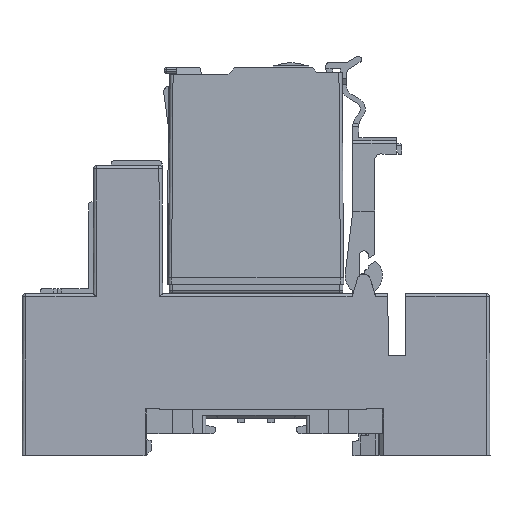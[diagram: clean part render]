
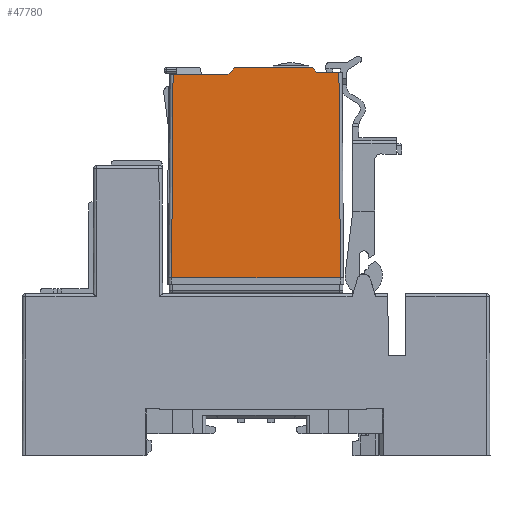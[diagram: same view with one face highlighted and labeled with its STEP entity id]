
A CAD part, left-side view. The second image highlights one B-rep face of the part: STEP entity #47780.
In plain terms, the highlighted planar face has unit normal (-1, 0, 0.007).
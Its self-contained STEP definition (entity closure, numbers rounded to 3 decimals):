
#1091 = CARTESIAN_POINT ( 'NONE',  ( 1.061, 42.044, 61.1 ) ) ;
#1729 = CARTESIAN_POINT ( 'NONE',  ( 1.065, 50.831, 61.699 ) ) ;
#2086 = EDGE_CURVE ( 'NONE', #45549, #36399, #53335, .T. ) ;
#2202 = DIRECTION ( 'NONE',  ( -0.007, 0., -1. ) ) ;
#2235 = EDGE_LOOP ( 'NONE', ( #5943, #43329, #26703, #21637, #56210, #16063, #18239, #55783 ) ) ;
#2594 = VERTEX_POINT ( 'NONE', #50655 ) ;
#2635 = DIRECTION ( 'NONE',  ( -0.007, 0.007, -1. ) ) ;
#4071 = CARTESIAN_POINT ( 'NONE',  ( 0.821, 23.99, 28.5 ) ) ;
#5306 = DIRECTION ( 'NONE',  ( 0.005, 0.707, 0.707 ) ) ;
#5371 = DIRECTION ( 'NONE',  ( 0., 1., 0. ) ) ;
#5943 = ORIENTED_EDGE ( 'NONE', *, *, #58213, .F. ) ;
#7057 = CARTESIAN_POINT ( 'NONE',  ( 1.063, 27.825, 61.499 ) ) ;
#7202 = CARTESIAN_POINT ( 'NONE',  ( 1.063, 24.233, 61.496 ) ) ;
#7261 = DIRECTION ( 'NONE',  ( -0.005, 0.707, -0.707 ) ) ;
#7504 = DIRECTION ( 'NONE',  ( 0., -1., 0. ) ) ;
#10232 = LINE ( 'NONE', #50904, #51799 ) ;
#11201 = EDGE_CURVE ( 'NONE', #45549, #20958, #10232, .T. ) ;
#11678 = EDGE_CURVE ( 'NONE', #13836, #30421, #13452, .T. ) ;
#11773 = LINE ( 'NONE', #21589, #34618 ) ;
#12189 = CARTESIAN_POINT ( 'NONE',  ( 1.069, 40.944, 62.2 ) ) ;
#13452 = LINE ( 'NONE', #26605, #41334 ) ;
#13836 = VERTEX_POINT ( 'NONE', #60201 ) ;
#16063 = ORIENTED_EDGE ( 'NONE', *, *, #53077, .T. ) ;
#16234 = VECTOR ( 'NONE', #7261, 1000. ) ;
#18190 = VECTOR ( 'NONE', #5306, 1000. ) ;
#18239 = ORIENTED_EDGE ( 'NONE', *, *, #11201, .F. ) ;
#20958 = VERTEX_POINT ( 'NONE', #55235 ) ;
#21589 = CARTESIAN_POINT ( 'NONE',  ( 1.063, 23.733, 61.5 ) ) ;
#21637 = ORIENTED_EDGE ( 'NONE', *, *, #49634, .T. ) ;
#22449 = LINE ( 'NONE', #56317, #30759 ) ;
#23036 = DIRECTION ( 'NONE',  ( 0., 1., 0. ) ) ;
#23754 = EDGE_CURVE ( 'NONE', #2594, #13836, #44345, .T. ) ;
#26605 = CARTESIAN_POINT ( 'NONE',  ( 1.069, 51.333, 62.2 ) ) ;
#26703 = ORIENTED_EDGE ( 'NONE', *, *, #11678, .T. ) ;
#27759 = DIRECTION ( 'NONE',  ( 0., 1., 0. ) ) ;
#29686 = VERTEX_POINT ( 'NONE', #1091 ) ;
#30421 = VERTEX_POINT ( 'NONE', #12189 ) ;
#30759 = VECTOR ( 'NONE', #23036, 1000. ) ;
#30937 = FACE_OUTER_BOUND ( 'NONE', #2235, .T. ) ;
#34618 = VECTOR ( 'NONE', #7504, 1000. ) ;
#36399 = VERTEX_POINT ( 'NONE', #41744 ) ;
#37611 = VECTOR ( 'NONE', #2635, 1000. ) ;
#39507 = VECTOR ( 'NONE', #43900, 1000. ) ;
#39846 = CARTESIAN_POINT ( 'NONE',  ( 1.063, 23.733, 61.5 ) ) ;
#40441 = PLANE ( 'NONE',  #44371 ) ;
#41334 = VECTOR ( 'NONE', #27759, 1000. ) ;
#41744 = CARTESIAN_POINT ( 'NONE',  ( 1.063, 24.233, 61.5 ) ) ;
#41843 = EDGE_CURVE ( 'NONE', #29686, #55608, #22449, .T. ) ;
#43329 = ORIENTED_EDGE ( 'NONE', *, *, #23754, .T. ) ;
#43900 = DIRECTION ( 'NONE',  ( 0.007, 0.007, 1. ) ) ;
#44345 = LINE ( 'NONE', #7057, #18190 ) ;
#44371 = AXIS2_PLACEMENT_3D ( 'NONE', #39846, #48980, #2202 ) ;
#45549 = VERTEX_POINT ( 'NONE', #4071 ) ;
#47780 = ADVANCED_FACE ( 'NONE', ( #30937 ), #40441, .F. ) ;
#48545 = CARTESIAN_POINT ( 'NONE',  ( 1.061, 50.836, 61.1 ) ) ;
#48980 = DIRECTION ( 'NONE',  ( 1., 0., -0.007 ) ) ;
#49391 = LINE ( 'NONE', #1729, #37611 ) ;
#49634 = EDGE_CURVE ( 'NONE', #30421, #29686, #54582, .T. ) ;
#50655 = CARTESIAN_POINT ( 'NONE',  ( 1.063, 27.826, 61.5 ) ) ;
#50904 = CARTESIAN_POINT ( 'NONE',  ( 0.821, 23.733, 28.5 ) ) ;
#51799 = VECTOR ( 'NONE', #5371, 1000. ) ;
#53077 = EDGE_CURVE ( 'NONE', #55608, #20958, #49391, .T. ) ;
#53335 = LINE ( 'NONE', #7202, #39507 ) ;
#54274 = CARTESIAN_POINT ( 'NONE',  ( 1.069, 40.945, 62.199 ) ) ;
#54582 = LINE ( 'NONE', #54274, #16234 ) ;
#55235 = CARTESIAN_POINT ( 'NONE',  ( 0.821, 51.075, 28.5 ) ) ;
#55608 = VERTEX_POINT ( 'NONE', #48545 ) ;
#55783 = ORIENTED_EDGE ( 'NONE', *, *, #2086, .T. ) ;
#56210 = ORIENTED_EDGE ( 'NONE', *, *, #41843, .T. ) ;
#56317 = CARTESIAN_POINT ( 'NONE',  ( 1.061, 42.044, 61.1 ) ) ;
#58213 = EDGE_CURVE ( 'NONE', #2594, #36399, #11773, .T. ) ;
#60201 = CARTESIAN_POINT ( 'NONE',  ( 1.069, 28.526, 62.2 ) ) ;
